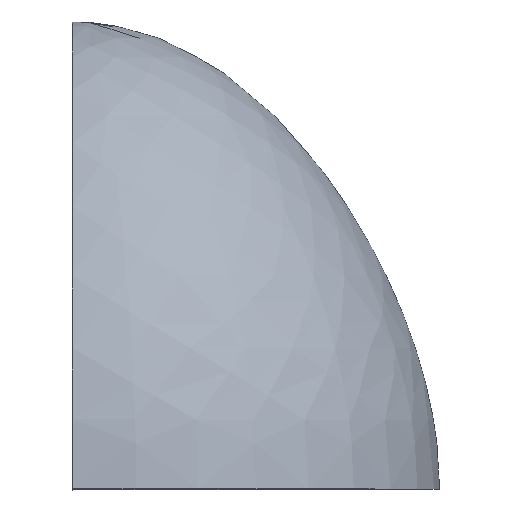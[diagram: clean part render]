
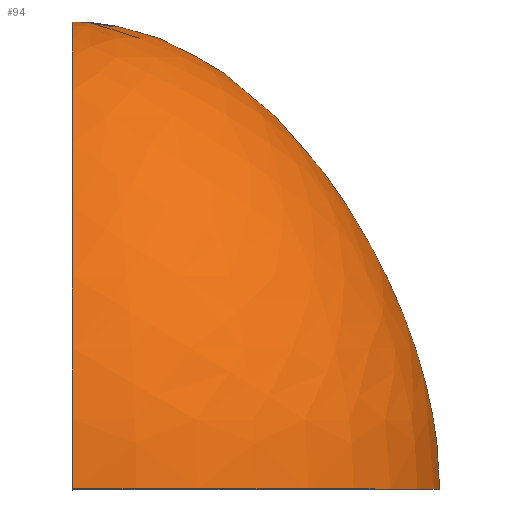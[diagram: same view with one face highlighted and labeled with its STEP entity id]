
A CAD part, top view. The second image highlights one B-rep face of the part: STEP entity #94.
In plain terms, the highlighted face is a revolution surface.
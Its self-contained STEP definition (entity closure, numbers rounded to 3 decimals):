
#52=CARTESIAN_POINT('Control Point',(0.,0.,88.)) ;
#53=CARTESIAN_POINT('Control Point',(0.,28.487,88.)) ;
#54=CARTESIAN_POINT('Control Point',(0.,60.048,76.683)) ;
#55=CARTESIAN_POINT('Control Point',(0.,94.683,54.048)) ;
#56=CARTESIAN_POINT('Control Point',(0.,112.,28.487)) ;
#57=CARTESIAN_POINT('Control Point',(0.,112.,0.)) ;
#58=CARTESIAN_POINT('Axis1P Location',(0.,0.,0.)) ;
#63=CARTESIAN_POINT('Control Point',(0.,0.,-88.)) ;
#64=CARTESIAN_POINT('Control Point',(0.,28.487,-88.)) ;
#65=CARTESIAN_POINT('Control Point',(0.,60.048,-76.683)) ;
#66=CARTESIAN_POINT('Control Point',(0.,94.683,-54.048)) ;
#67=CARTESIAN_POINT('Control Point',(0.,112.,-28.487)) ;
#68=CARTESIAN_POINT('Control Point',(0.,112.,0.)) ;
#69=CARTESIAN_POINT('Vertex',(0.,0.,-88.)) ;
#71=CARTESIAN_POINT('Vertex',(0.,112.,0.)) ;
#75=CARTESIAN_POINT('Control Point',(0.,0.,88.)) ;
#76=CARTESIAN_POINT('Control Point',(0.,28.487,88.)) ;
#77=CARTESIAN_POINT('Control Point',(0.,60.048,76.683)) ;
#78=CARTESIAN_POINT('Control Point',(0.,94.683,54.048)) ;
#79=CARTESIAN_POINT('Control Point',(0.,112.,28.487)) ;
#80=CARTESIAN_POINT('Control Point',(0.,112.,0.)) ;
#81=CARTESIAN_POINT('Vertex',(0.,0.,88.)) ;
#84=CARTESIAN_POINT('Axis2P3D Location',(0.,0.,0.)) ;
#59=DIRECTION('Axis1P Direction',(0.,1.,0.)) ;
#85=DIRECTION('Axis2P3D Direction',(0.,1.,0.)) ;
#86=AXIS2_PLACEMENT_3D('Circle Axis2P3D',#84,#85,$) ;
#90=ORIENTED_EDGE('',*,*,#73,.T.) ;
#91=ORIENTED_EDGE('',*,*,#83,.F.) ;
#92=ORIENTED_EDGE('',*,*,#88,.T.) ;
#94=ADVANCED_FACE('PartBody',(#93),#61,.T.) ;
#60=AXIS1_PLACEMENT('Revolution Surface Axis1P',#58,#59) ;
#51=B_SPLINE_CURVE_WITH_KNOTS('',5,(#52,#53,#54,#55,#56,#57),.UNSPECIFIED.,.F.,.U.,(6,6),(0.,142.436),.UNSPECIFIED.) ;
#62=B_SPLINE_CURVE_WITH_KNOTS('',5,(#63,#64,#65,#66,#67,#68),.UNSPECIFIED.,.F.,.U.,(6,6),(0.,142.436),.UNSPECIFIED.) ;
#74=B_SPLINE_CURVE_WITH_KNOTS('',5,(#75,#76,#77,#78,#79,#80),.UNSPECIFIED.,.F.,.U.,(6,6),(0.,142.436),.UNSPECIFIED.) ;
#87=CIRCLE('generated circle',#86,88.) ;
#73=EDGE_CURVE('',#70,#72,#62,.T.) ;
#83=EDGE_CURVE('',#82,#72,#74,.T.) ;
#88=EDGE_CURVE('',#82,#70,#87,.T.) ;
#89=EDGE_LOOP('',(#90,#91,#92)) ;
#93=FACE_OUTER_BOUND('',#89,.T.) ;
#61=SURFACE_OF_REVOLUTION('Surface of Revolution',#51,#60) ;
#70=VERTEX_POINT('',#69) ;
#72=VERTEX_POINT('',#71) ;
#82=VERTEX_POINT('',#81) ;
